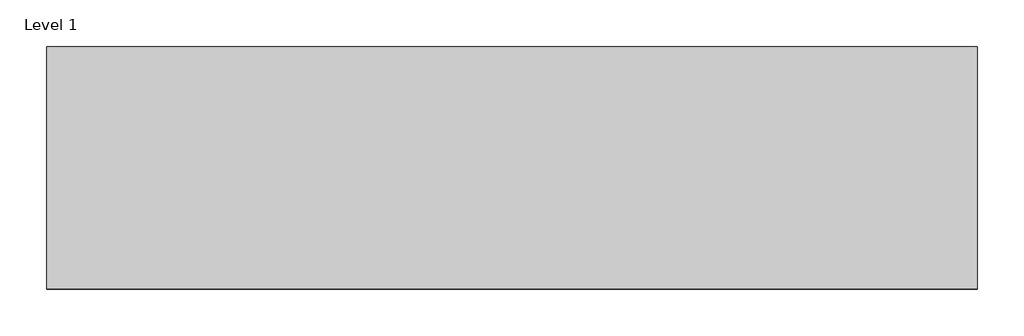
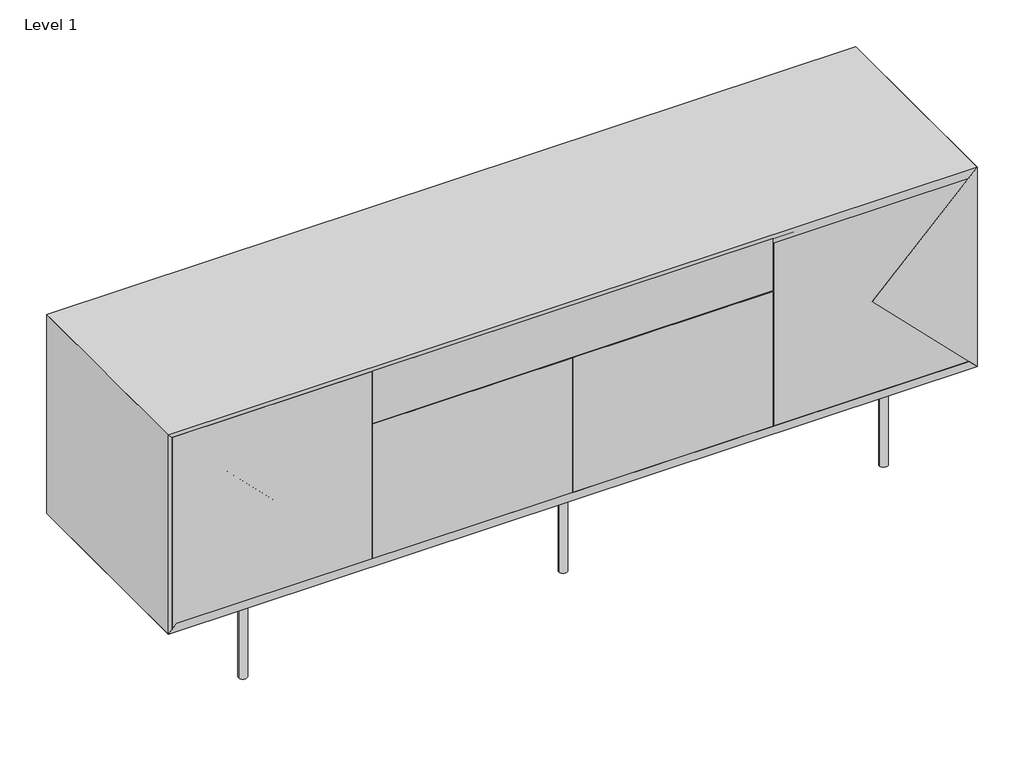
# One storey: 1 proxy.
"""IFC4 building model written with IfcOpenShell, lengths in millimetres."""

from ifc_helpers import new_model, si_unit, origin, place, context, project, spatial, transform, mapped, element, save
from components import generic_models_7b891405

model = new_model("IFC4")

# Units and contexts
model_context = context("Model", 3, world=origin())
ifc_project = project(units=[si_unit("LENGTHUNIT", "METRE", prefix="MILLI")], contexts=[model_context])

# Site, building, storey
site = spatial("IfcSite", under=ifc_project)
building = spatial("IfcBuilding", under=site)
storey = spatial("IfcBuildingStorey", under=building, Name="Level 1", Elevation=0.0)

# Proxy
placement = place(None, origin())
generic_models_shape = generic_models_7b891405(model_context)
element("IfcBuildingElementProxy", 1, Name="PARAGON^CREDENZA 2_35x96 4 DOORS 1 DRAWER-PARTS SOLID", ObjectType="PARAGON^CREDENZA 2_35x96 4 DOORS 1 DRAWER-PARTS SOLID", at=placement, inside=storey, context=model_context, shape_type="MappedRepresentation", body=[
    mapped(generic_models_shape, transform((0.0, 0.0, 254.0), x_axis=(1.0, 0.0, 0.0), y_axis=(0.0, 0.0, 1.0), z_axis=(0.0, -1.0, 0.0))),
])

save(model, "model.ifc")
